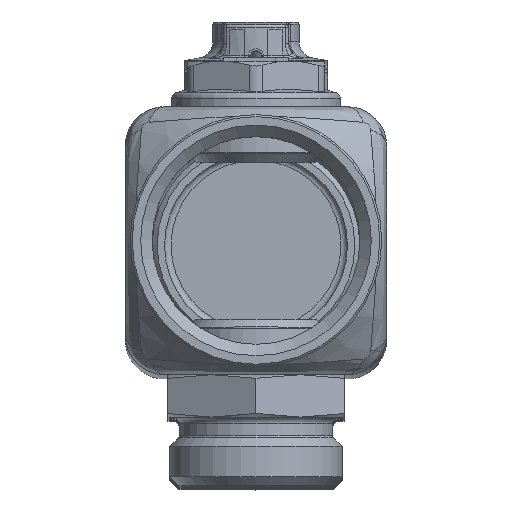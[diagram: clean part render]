
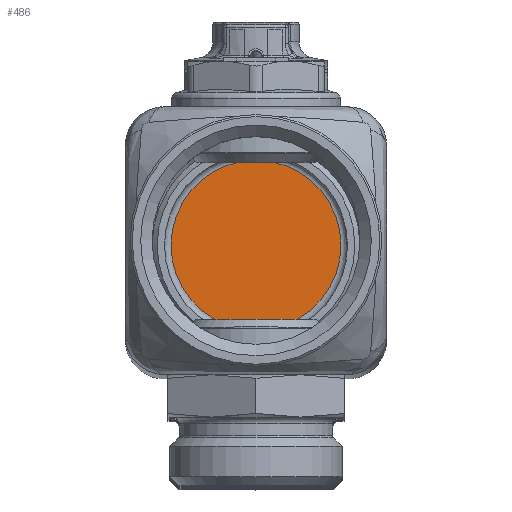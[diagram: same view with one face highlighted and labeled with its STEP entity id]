
A CAD part, top view. The second image highlights one B-rep face of the part: STEP entity #486.
In plain terms, the highlighted planar face has unit normal (0, 0, 1).
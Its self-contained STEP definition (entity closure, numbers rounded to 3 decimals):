
#486=ADVANCED_FACE('',(#6093),#6095,.T.);
#6093=FACE_BOUND('',#6094,.T.);
#6094=EDGE_LOOP('',(#15069));
#6095=PLANE('',#6096);
#6096=AXIS2_PLACEMENT_3D('',#6097,#6098,#6099);
#6097=CARTESIAN_POINT('',(0.,0.,-209.75));
#6098=DIRECTION('',(0.,0.,1.));
#6099=DIRECTION('',(1.,0.,0.));
#15069=ORIENTED_EDGE('',*,*,#18291,.T.);
#18291=EDGE_CURVE('',#21038,#21038,#21039,.T.);
#21038=VERTEX_POINT('',#27992);
#21039=CIRCLE('',#27993,13.);
#27992=CARTESIAN_POINT('',(13.,0.,-209.75));
#27993=AXIS2_PLACEMENT_3D('',#27994,#27995,#27996);
#27994=CARTESIAN_POINT('',(0.,0.,-209.75));
#27995=DIRECTION('',(0.,0.,1.));
#27996=DIRECTION('',(1.,0.,0.));
